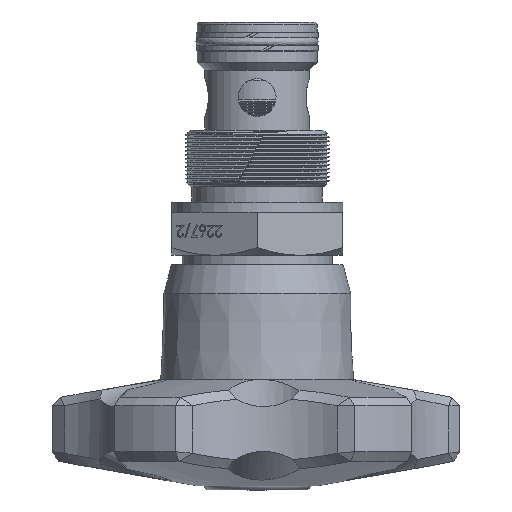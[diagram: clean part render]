
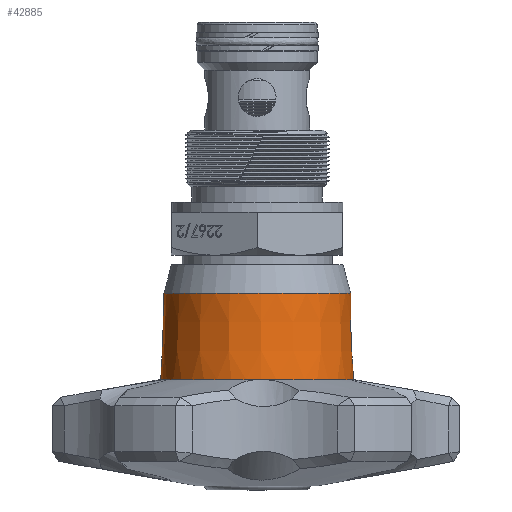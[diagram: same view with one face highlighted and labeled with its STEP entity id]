
A CAD part, left-side view. The second image highlights one B-rep face of the part: STEP entity #42885.
In plain terms, the highlighted conical face has half-angle 2 degrees and reference radius 27.25 mm.
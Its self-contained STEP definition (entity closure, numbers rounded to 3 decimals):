
#51 = ORIENTED_EDGE ( 'NONE', *, *, #1370, .T. ) ;
#125 = DIRECTION ( 'NONE',  ( 0., -1., 0. ) ) ;
#531 = CONICAL_SURFACE ( 'NONE', #34640, 27.25, 0.035 ) ;
#914 = CARTESIAN_POINT ( 'NONE',  ( 0., 33.5, 0. ) ) ;
#955 = EDGE_CURVE ( 'NONE', #35505, #16704, #16318, .T. ) ;
#1356 = DIRECTION ( 'NONE',  ( 0., -1., 0. ) ) ;
#1370 = EDGE_CURVE ( 'NONE', #24778, #18266, #27442, .T. ) ;
#2112 = ORIENTED_EDGE ( 'NONE', *, *, #23271, .T. ) ;
#2573 = EDGE_CURVE ( 'NONE', #39739, #10777, #18444, .T. ) ;
#3148 = DIRECTION ( 'NONE',  ( 0., -1., 0. ) ) ;
#4090 = VERTEX_POINT ( 'NONE', #21869 ) ;
#4772 = CARTESIAN_POINT ( 'NONE',  ( -10.443, 33.5, 26.116 ) ) ;
#4987 = ORIENTED_EDGE ( 'NONE', *, *, #32803, .T. ) ;
#5482 = CARTESIAN_POINT ( 'NONE',  ( 26.75, 33.5, -8.692 ) ) ;
#7079 = DIRECTION ( 'NONE',  ( 0., 0., -1. ) ) ;
#7788 = CARTESIAN_POINT ( 'NONE',  ( -10.995, 8.397, 24.934 ) ) ;
#7873 = EDGE_CURVE ( 'NONE', #39739, #30967, #30441, .T. ) ;
#8173 = FACE_OUTER_BOUND ( 'NONE', #11214, .T. ) ;
#9041 = DIRECTION ( 'NONE',  ( 0., 0., 1. ) ) ;
#9093 = CARTESIAN_POINT ( 'NONE',  ( -10.443, 33.5, 26.116 ) ) ;
#10777 = VERTEX_POINT ( 'NONE', #4772 ) ;
#11214 = EDGE_LOOP ( 'NONE', ( #31406, #4987, #26743, #26138, #40576, #51, #31317, #2112, #23029 ) ) ;
#12379 = CARTESIAN_POINT ( 'NONE',  ( 0., 33.5, 0. ) ) ;
#12804 = AXIS2_PLACEMENT_3D ( 'NONE', #12379, #39222, #39670 ) ;
#13196 = CARTESIAN_POINT ( 'NONE',  ( 0., 8.397, 0. ) ) ;
#13734 = AXIS2_PLACEMENT_3D ( 'NONE', #13196, #3148, #26705 ) ;
#14651 = DIRECTION ( 'NONE',  ( 0., 0., -1. ) ) ;
#14709 = CARTESIAN_POINT ( 'NONE',  ( 0., 8.397, 0. ) ) ;
#15156 = DIRECTION ( 'NONE',  ( 0., 1., 0. ) ) ;
#15409 = DIRECTION ( 'NONE',  ( 0., -1., 0. ) ) ;
#16318 = CIRCLE ( 'NONE', #39334, 28.127 ) ;
#16704 = VERTEX_POINT ( 'NONE', #43114 ) ;
#17363 = CARTESIAN_POINT ( 'NONE',  ( 0., 33.5, 0. ) ) ;
#17411 = CARTESIAN_POINT ( 'NONE',  ( 0., 33.5, 0. ) ) ;
#17689 = AXIS2_PLACEMENT_3D ( 'NONE', #914, #1356, #14651 ) ;
#18266 = VERTEX_POINT ( 'NONE', #32499 ) ;
#18444 = B_SPLINE_CURVE_WITH_KNOTS ( 'NONE', 3,
 ( #7788, #27859, #18701, #9093 ),
 .UNSPECIFIED., .F., .F.,
 ( 4, 4 ),
 ( 0., 0.025 ),
 .UNSPECIFIED. ) ;
#18701 = CARTESIAN_POINT ( 'NONE',  ( -10.624, 25.132, 25.729 ) ) ;
#20552 = VERTEX_POINT ( 'NONE', #31239 ) ;
#21869 = CARTESIAN_POINT ( 'NONE',  ( 0., 33.5, -28.127 ) ) ;
#21925 = CARTESIAN_POINT ( 'NONE',  ( 0., 33.5, 0. ) ) ;
#22589 = CARTESIAN_POINT ( 'NONE',  ( 10.995, 8.397, 24.934 ) ) ;
#23029 = ORIENTED_EDGE ( 'NONE', *, *, #955, .T. ) ;
#23271 = EDGE_CURVE ( 'NONE', #4090, #35505, #42793, .T. ) ;
#23932 = DIRECTION ( 'NONE',  ( 0., -1., 0. ) ) ;
#23972 = AXIS2_PLACEMENT_3D ( 'NONE', #36776, #125, #7079 ) ;
#24064 = CARTESIAN_POINT ( 'NONE',  ( -10.995, 8.397, 24.934 ) ) ;
#24727 = AXIS2_PLACEMENT_3D ( 'NONE', #17363, #30872, #34812 ) ;
#24778 = VERTEX_POINT ( 'NONE', #33530 ) ;
#25448 = CIRCLE ( 'NONE', #24727, 28.127 ) ;
#25681 = CARTESIAN_POINT ( 'NONE',  ( 10.624, 25.132, 25.729 ) ) ;
#26138 = ORIENTED_EDGE ( 'NONE', *, *, #2573, .T. ) ;
#26705 = DIRECTION ( 'NONE',  ( 0., 0., -1. ) ) ;
#26743 = ORIENTED_EDGE ( 'NONE', *, *, #7873, .F. ) ;
#27442 = CIRCLE ( 'NONE', #17689, 28.127 ) ;
#27849 = EDGE_CURVE ( 'NONE', #10777, #24778, #25448, .T. ) ;
#27859 = CARTESIAN_POINT ( 'NONE',  ( -10.807, 16.764, 25.336 ) ) ;
#29539 = CIRCLE ( 'NONE', #12804, 28.127 ) ;
#30116 = EDGE_CURVE ( 'NONE', #18266, #4090, #29539, .T. ) ;
#30441 = CIRCLE ( 'NONE', #13734, 27.25 ) ;
#30527 = DIRECTION ( 'NONE',  ( 0., 0., -1. ) ) ;
#30872 = DIRECTION ( 'NONE',  ( 0., -1., 0. ) ) ;
#30873 = B_SPLINE_CURVE_WITH_KNOTS ( 'NONE', 3,
 ( #42245, #25681, #39006, #22589 ),
 .UNSPECIFIED., .F., .F.,
 ( 4, 4 ),
 ( 0., 0.025 ),
 .UNSPECIFIED. ) ;
#30967 = VERTEX_POINT ( 'NONE', #40836 ) ;
#31239 = CARTESIAN_POINT ( 'NONE',  ( 10.443, 33.5, 26.116 ) ) ;
#31317 = ORIENTED_EDGE ( 'NONE', *, *, #30116, .T. ) ;
#31406 = ORIENTED_EDGE ( 'NONE', *, *, #33483, .T. ) ;
#32499 = CARTESIAN_POINT ( 'NONE',  ( -26.75, 33.5, -8.692 ) ) ;
#32803 = EDGE_CURVE ( 'NONE', #20552, #30967, #30873, .T. ) ;
#33483 = EDGE_CURVE ( 'NONE', #16704, #20552, #38114, .T. ) ;
#33530 = CARTESIAN_POINT ( 'NONE',  ( -16.532, 33.5, 22.755 ) ) ;
#34640 = AXIS2_PLACEMENT_3D ( 'NONE', #14709, #15156, #9041 ) ;
#34812 = DIRECTION ( 'NONE',  ( 0., 0., -1. ) ) ;
#35505 = VERTEX_POINT ( 'NONE', #5482 ) ;
#35699 = DIRECTION ( 'NONE',  ( 0., 0., -1. ) ) ;
#36776 = CARTESIAN_POINT ( 'NONE',  ( 0., 33.5, 0. ) ) ;
#38114 = CIRCLE ( 'NONE', #42968, 28.127 ) ;
#39006 = CARTESIAN_POINT ( 'NONE',  ( 10.807, 16.764, 25.336 ) ) ;
#39222 = DIRECTION ( 'NONE',  ( 0., -1., 0. ) ) ;
#39334 = AXIS2_PLACEMENT_3D ( 'NONE', #21925, #15409, #35699 ) ;
#39670 = DIRECTION ( 'NONE',  ( 0., 0., -1. ) ) ;
#39739 = VERTEX_POINT ( 'NONE', #24064 ) ;
#40576 = ORIENTED_EDGE ( 'NONE', *, *, #27849, .T. ) ;
#40836 = CARTESIAN_POINT ( 'NONE',  ( 10.995, 8.397, 24.934 ) ) ;
#42245 = CARTESIAN_POINT ( 'NONE',  ( 10.443, 33.5, 26.116 ) ) ;
#42793 = CIRCLE ( 'NONE', #23972, 28.127 ) ;
#42885 = ADVANCED_FACE ( 'NONE', ( #8173 ), #531, .T. ) ;
#42968 = AXIS2_PLACEMENT_3D ( 'NONE', #17411, #23932, #30527 ) ;
#43114 = CARTESIAN_POINT ( 'NONE',  ( 16.532, 33.5, 22.755 ) ) ;
